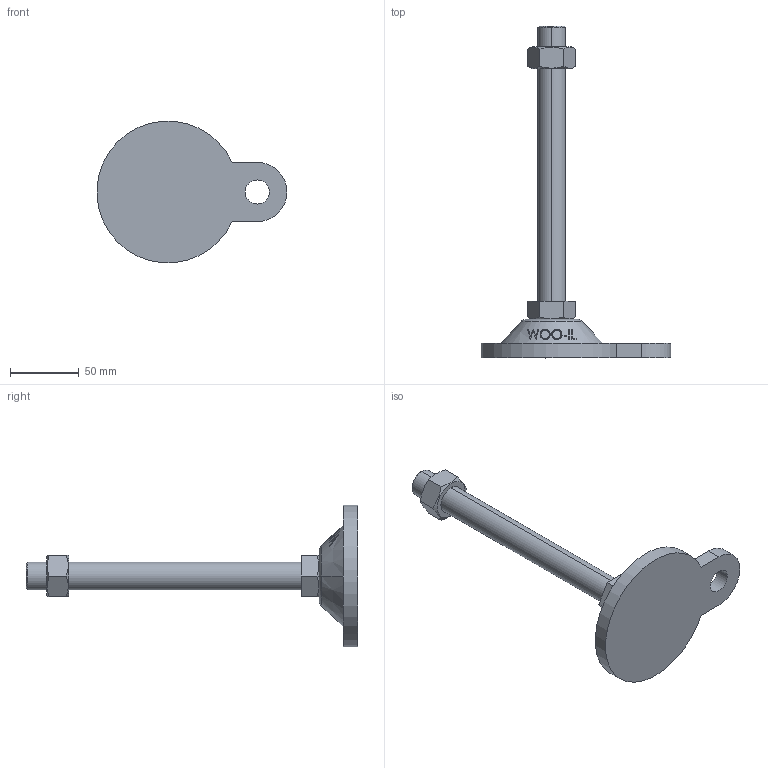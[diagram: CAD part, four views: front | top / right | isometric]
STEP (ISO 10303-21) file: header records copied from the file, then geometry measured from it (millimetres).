
FILE_DESCRIPTION (( 'STEP AP214' ), '1' );
FILE_NAME ('ARB103-M20-200.step', '2021-03-25T00:41:34', ( '' ), ( '' ), 'SwSTEP 2.0', 'SolidWorks 2019', '' );
FILE_SCHEMA (( 'AUTOMOTIVE_DESIGN' ));
Length unit declared in the file: millimetre
Products named in the file (2): ARB103-M20-200
Bounding box: 137.8 x 241 x 102.64 mm (x, y, z)
Volume: 226556.9 mm3; surface area: 43717.1 mm2
Topology: 3 solids, 3 shells, 97 faces, 233 edges, 152 vertices
Faces by surface type: plane 49, cone 22, bspline 16, cylinder 8, torus 2
Entity records: 4456 total; most frequent: CARTESIAN_POINT 2274, ORIENTED_EDGE 466, DIRECTION 375, EDGE_CURVE 233, VERTEX_POINT 152, AXIS2_PLACEMENT_3D 143, EDGE_LOOP 111, FACE_OUTER_BOUND 97
